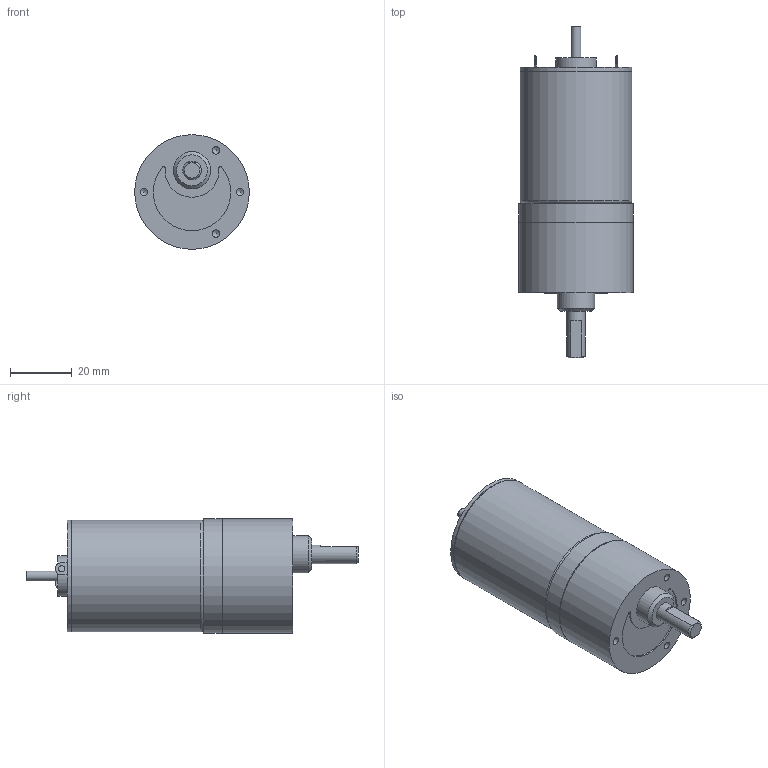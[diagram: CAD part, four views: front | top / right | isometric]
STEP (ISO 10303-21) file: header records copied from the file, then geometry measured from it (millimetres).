
FILE_DESCRIPTION((''),'2;1');
FILE_NAME('C:\Documents and Settings\SSEGAWA\デスクトップ\TP-3644L-HM-4.STP','2013-07-26T17:10:02',('SSEGAWA'),(''),'Autodesk Inventor 2010','Autodesk Inventor 2010','');
FILE_SCHEMA(('CONFIG_CONTROL_DESIGN'));
Length unit declared in the file: millimetre
Products named in the file (1): tp_3644l_hm_4_Shrinkwrap_1
Bounding box: 37 x 107.1 x 37 mm (x, y, z)
Volume: 77004.2 mm3; surface area: 11752.1 mm2
Topology: 1 solids, 4 shells, 65 faces, 140 edges, 94 vertices
Faces by surface type: plane 27, cylinder 18, bspline 16, torus 2, cone 2
Full cylindrical faces by diameter (mm): 3 x1, 3.175 x1, 3.5 x1, 6 x1, 12 x1, 13 x1, 35.6 x1, 36 x2, 36.6 x1, 37 x2
Entity records: 1751 total; most frequent: CARTESIAN_POINT 503, DIRECTION 245, ORIENTED_EDGE 176, EDGE_LOOP 111, AXIS2_PLACEMENT_3D 109, EDGE_CURVE 88, VERTEX_POINT 73, STYLED_ITEM 66
